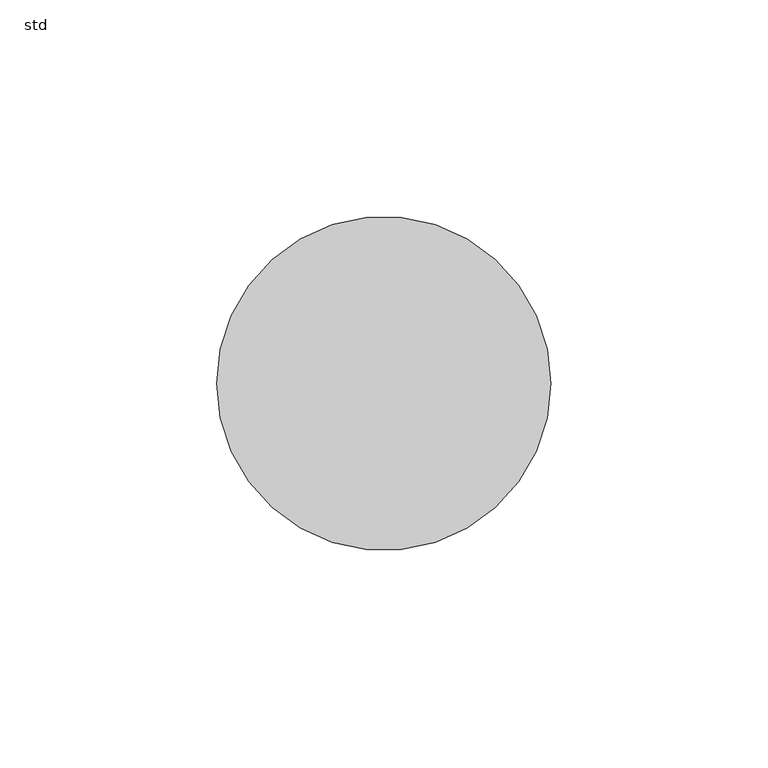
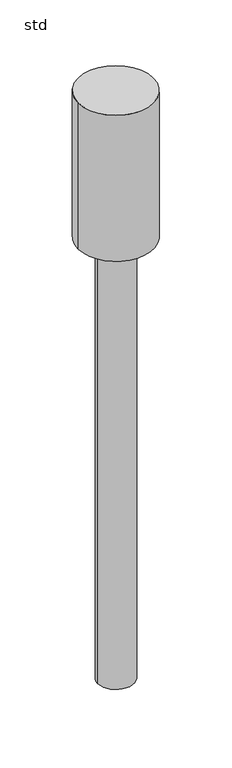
"""IFC4 building model written with IfcOpenShell, lengths in millimetres: unitary equipment geometry, ZZZ_do not use_ME_ST_WPB_heating rod_ACO : std."""

from ifc_helpers import new_model, si_unit, point, frame, origin, origin_2d, place, context, project, spatial, circle_curve, trimmed, segment, composite_curve, outline, extrude, source, transform, mapped, element, save


def std_bcf9d813(model_context):
    return source(origin(), model_context, "Body", "SweptSolid", [
        extrude(outline(composite_curve([segment(trimmed(circle_curve(origin_2d(), 18.5), [point((-18.5, 0.0))], [point((18.5, 0.0))], False, "CARTESIAN"), True, "CONTINUOUS"), segment(trimmed(circle_curve(origin_2d(), 18.5), [point((18.5, 0.0))], [point((-18.5, 0.0))], False, "CARTESIAN"), True, "CONTINUOUS")], self_intersect=False)), frame((0.0, 0.0, -502.0), z_axis=(0.0, 0.0, 1.0), x_axis=(1.0, 0.0, 0.0)), (0.0, 0.0, 1.0), 477.0),
        extrude(outline(composite_curve([segment(trimmed(circle_curve(origin_2d(), 38.5), [point((-38.5, 0.0))], [point((38.5, 0.0))], False, "CARTESIAN"), True, "CONTINUOUS"), segment(trimmed(circle_curve(origin_2d(), 38.5), [point((38.5, 0.0))], [point((-38.5, 0.0))], False, "CARTESIAN"), True, "CONTINUOUS")], self_intersect=False)), frame((0.0, 0.0, -25.0), z_axis=(0.0, 0.0, 1.0), x_axis=(1.0, 0.0, 0.0)), (0.0, 0.0, 1.0), 158.0),
    ])


if __name__ == "__main__":
    model = new_model("IFC4")
    model_context = context("Model", 3, world=origin())
    ifc_project = project(units=[si_unit("LENGTHUNIT", "METRE", prefix="MILLI")], contexts=[model_context])
    site = spatial("IfcSite", under=ifc_project)
    building = spatial("IfcBuilding", under=site)
    placement = place(None, origin())
    std_shape = std_bcf9d813(model_context)
    element("IfcUnitaryEquipment", 1, ObjectType="ZZZ_do not use_ME_ST_WPB_heating rod_ACO : std", at=placement, inside=building, context=model_context, shape_type="MappedRepresentation", body=[
        mapped(std_shape, transform((0.0, 0.0, 0.0), x_axis=(1.0, 0.0, 0.0), y_axis=(0.0, 1.0, 0.0), z_axis=(0.0, 0.0, 1.0))),
    ])
    save(model, "model.ifc")
